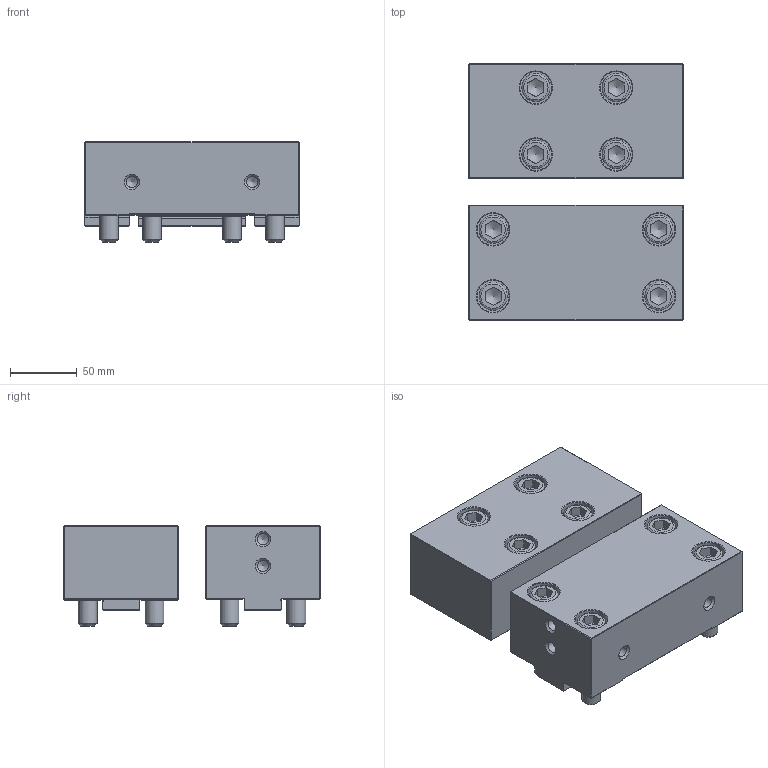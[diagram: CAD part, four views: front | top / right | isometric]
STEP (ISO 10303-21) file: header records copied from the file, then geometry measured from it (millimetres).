
FILE_DESCRIPTION(('STEP AP214'), '1');
FILE_NAME('BB.VS.160.21.040', '', ('UNSPECIFIED'), ('UNSPECIFIED'), 'C3D Converter', 'C3D Toolkit', '');
FILE_SCHEMA(('AUTOMOTIVE_DESIGN { 1 0 10303 214 3 1 1}'));
Length unit declared in the file: millimetre
Products named in the file (1): BB.VS.160.21.040 СБ
Bounding box: 160 x 192 x 75 mm (x, y, z)
Volume: 1506032.4 mm3; surface area: 176574.2 mm2
Topology: 2 solids, 2 shells, 314 faces, 698 edges, 420 vertices
Faces by surface type: plane 178, cone 68, cylinder 52, torus 16
Full cylindrical faces by diameter (mm): 4.917 x2, 8.376 x12, 14 x8, 16 x8, 21 x8, 24 x8
Entity records: 12241 total; most frequent: CARTESIAN_POINT 3439, DIRECTION 1282, ORIENTED_EDGE 1092, EDGE_CURVE 546, AXIS2_PLACEMENT_3D 481, EDGE_LOOP 476, VERTEX_POINT 398, LINE 320
